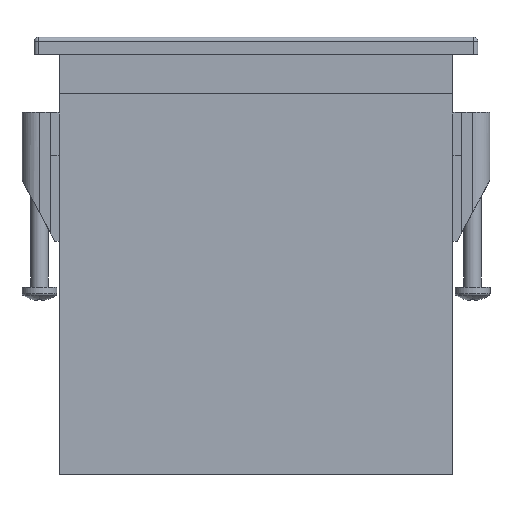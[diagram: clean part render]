
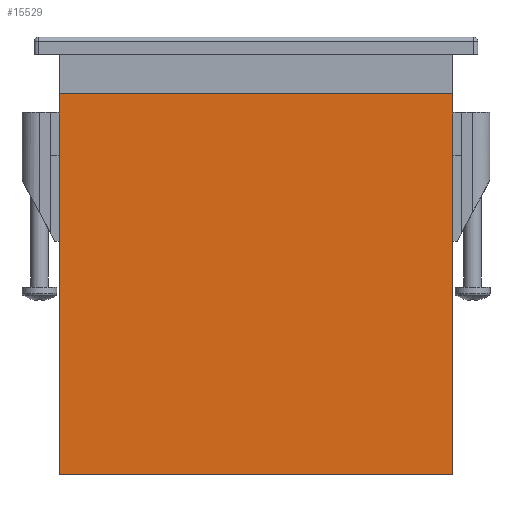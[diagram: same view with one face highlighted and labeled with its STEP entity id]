
A CAD part, front view. The second image highlights one B-rep face of the part: STEP entity #15529.
In plain terms, the highlighted planar face has unit normal (0, -1, 0).
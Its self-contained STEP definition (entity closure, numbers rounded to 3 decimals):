
#164 = DIRECTION ( 'NONE',  ( 0., 0., -1. ) ) ;
#1392 = EDGE_CURVE ( 'NONE', #25877, #38429, #9467, .T. ) ;
#1765 = CARTESIAN_POINT ( 'NONE',  ( 0., 0., 0. ) ) ;
#2162 = LINE ( 'NONE', #1765, #15328 ) ;
#5617 = CARTESIAN_POINT ( 'NONE',  ( 90., 0., -87.1 ) ) ;
#9467 = LINE ( 'NONE', #26296, #62116 ) ;
#10734 = DIRECTION ( 'NONE',  ( 0., 0., 1. ) ) ;
#11057 = DIRECTION ( 'NONE',  ( -1., 0., 0. ) ) ;
#14495 = FACE_OUTER_BOUND ( 'NONE', #48596, .T. ) ;
#15111 = CARTESIAN_POINT ( 'NONE',  ( 90., 0., 0. ) ) ;
#15328 = VECTOR ( 'NONE', #16709, 1000. ) ;
#15529 = ADVANCED_FACE ( 'NONE', ( #14495 ), #24206, .F. ) ;
#16709 = DIRECTION ( 'NONE',  ( 0., 0., -1. ) ) ;
#20764 = EDGE_CURVE ( 'NONE', #38429, #49574, #31876, .T. ) ;
#21765 = ORIENTED_EDGE ( 'NONE', *, *, #1392, .F. ) ;
#21871 = CARTESIAN_POINT ( 'NONE',  ( 0., 0., -87.1 ) ) ;
#22382 = VERTEX_POINT ( 'NONE', #58678 ) ;
#24206 = PLANE ( 'NONE',  #50211 ) ;
#24812 = CARTESIAN_POINT ( 'NONE',  ( 90., 0., -87.1 ) ) ;
#25828 = ORIENTED_EDGE ( 'NONE', *, *, #45737, .T. ) ;
#25877 = VERTEX_POINT ( 'NONE', #15111 ) ;
#26296 = CARTESIAN_POINT ( 'NONE',  ( 90., 0., 0. ) ) ;
#31876 = LINE ( 'NONE', #24812, #45015 ) ;
#33205 = LINE ( 'NONE', #44343, #44804 ) ;
#37367 = ORIENTED_EDGE ( 'NONE', *, *, #62683, .T. ) ;
#38429 = VERTEX_POINT ( 'NONE', #5617 ) ;
#38871 = CARTESIAN_POINT ( 'NONE',  ( 90., 0., 0. ) ) ;
#39590 = DIRECTION ( 'NONE',  ( -1., 0., 0. ) ) ;
#44343 = CARTESIAN_POINT ( 'NONE',  ( 90., 0., 0. ) ) ;
#44804 = VECTOR ( 'NONE', #39590, 1000. ) ;
#45015 = VECTOR ( 'NONE', #11057, 1000. ) ;
#45737 = EDGE_CURVE ( 'NONE', #25877, #22382, #33205, .T. ) ;
#48596 = EDGE_LOOP ( 'NONE', ( #37367, #49006, #21765, #25828 ) ) ;
#49006 = ORIENTED_EDGE ( 'NONE', *, *, #20764, .F. ) ;
#49574 = VERTEX_POINT ( 'NONE', #21871 ) ;
#50211 = AXIS2_PLACEMENT_3D ( 'NONE', #38871, #59642, #10734 ) ;
#58678 = CARTESIAN_POINT ( 'NONE',  ( 0., 0., 0. ) ) ;
#59642 = DIRECTION ( 'NONE',  ( 0., 1., 0. ) ) ;
#62116 = VECTOR ( 'NONE', #164, 1000. ) ;
#62683 = EDGE_CURVE ( 'NONE', #22382, #49574, #2162, .T. ) ;
